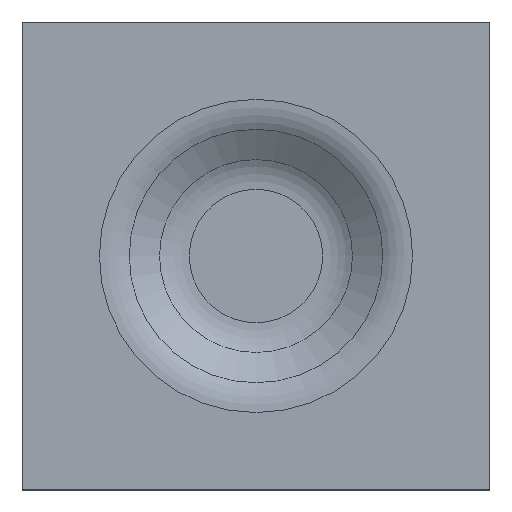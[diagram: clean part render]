
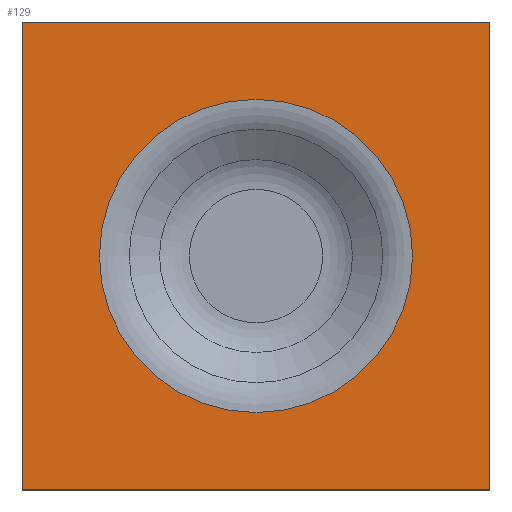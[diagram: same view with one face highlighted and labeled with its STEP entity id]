
A CAD part, top view. The second image highlights one B-rep face of the part: STEP entity #129.
In plain terms, the highlighted planar face has unit normal (0, 0, 1).
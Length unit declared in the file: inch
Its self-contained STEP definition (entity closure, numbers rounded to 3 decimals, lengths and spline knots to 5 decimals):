
#24=CARTESIAN_POINT('',(5.13583,-5.14567,-5.12598));
#25=VERTEX_POINT('',#24);
#34=CARTESIAN_POINT('',(4.13583,-5.14567,-5.12598));
#35=VERTEX_POINT('',#34);
#36=CARTESIAN_POINT('',(21.65834,-5.14567,-5.12598));
#37=DIRECTION('',(1.,0.,0.));
#38=VECTOR('',#37,1.);
#39=LINE('',#36,#38);
#40=EDGE_CURVE('',#35,#25,#39,.T.);
#65=CARTESIAN_POINT('',(4.13583,-4.14567,-5.12598));
#66=VERTEX_POINT('',#65);
#67=CARTESIAN_POINT('',(4.13583,13.82971,-5.12598));
#68=DIRECTION('',(0.,-1.,0.));
#69=VECTOR('',#68,1.);
#70=LINE('',#67,#69);
#71=EDGE_CURVE('',#66,#35,#70,.T.);
#95=ORIENTED_EDGE('',*,*,#40,.T.);
#96=CARTESIAN_POINT('',(5.13583,-4.14567,-5.12598));
#97=VERTEX_POINT('',#96);
#98=CARTESIAN_POINT('',(5.13583,4.93451,-5.12598));
#99=DIRECTION('',(0.,1.,0.));
#100=VECTOR('',#99,1.);
#101=LINE('',#98,#100);
#102=EDGE_CURVE('',#25,#97,#101,.T.);
#103=ORIENTED_EDGE('',*,*,#102,.T.);
#104=CARTESIAN_POINT('',(27.31339,-4.14567,-5.12598));
#105=DIRECTION('',(-1.,0.,0.));
#106=VECTOR('',#105,1.);
#107=LINE('',#104,#106);
#108=EDGE_CURVE('',#97,#66,#107,.T.);
#109=ORIENTED_EDGE('',*,*,#108,.T.);
#110=ORIENTED_EDGE('',*,*,#71,.T.);
#111=EDGE_LOOP('',(#95,#103,#109,#110));
#112=FACE_OUTER_BOUND('',#111,.T.);
#113=CARTESIAN_POINT('',(4.97047,-4.64567,-5.12598));
#114=VERTEX_POINT('',#113);
#115=CARTESIAN_POINT('',(4.63583,-4.64567,-5.12598));
#116=DIRECTION('',(0.,0.,1.));
#117=DIRECTION('',(1.,0.,0.));
#118=AXIS2_PLACEMENT_3D('',#115,#116,#117);
#119=CIRCLE('',#118,0.33465);
#120=EDGE_CURVE('',#114,#114,#119,.T.);
#121=ORIENTED_EDGE('',*,*,#120,.F.);
#122=EDGE_LOOP('',(#121));
#123=FACE_BOUND('',#122,.T.);
#124=CARTESIAN_POINT('',(0.,-5.7874,-5.12598));
#125=DIRECTION('',(0.,0.,1.));
#126=DIRECTION('',(-1.,0.,0.));
#127=AXIS2_PLACEMENT_3D('',#124,#125,#126);
#128=PLANE('',#127);
#129=ADVANCED_FACE('',(#112,#123),#128,.T.);
